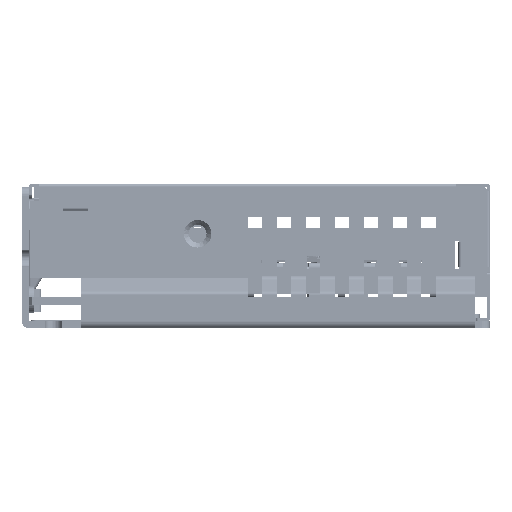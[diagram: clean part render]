
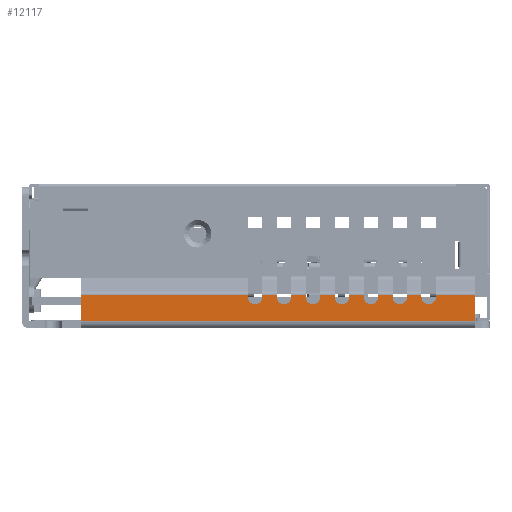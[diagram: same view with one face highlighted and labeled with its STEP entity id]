
A CAD part, left-side view. The second image highlights one B-rep face of the part: STEP entity #12117.
In plain terms, the highlighted planar face has unit normal (-1, 0, 0).
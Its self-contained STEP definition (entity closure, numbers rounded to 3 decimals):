
#3555=DIRECTION('',(0.,1.,0.));
#3556=VECTOR('',#3555,34.55);
#3557=CARTESIAN_POINT('',(-79.5,1.7,6.865));
#3558=LINE('',#3557,#3556);
#3559=DIRECTION('',(0.,0.,-1.));
#3560=VECTOR('',#3559,0.365);
#3561=CARTESIAN_POINT('',(-79.5,1.7,6.865));
#3562=LINE('',#3561,#3560);
#3563=CARTESIAN_POINT('',(-79.5,0.2,6.5));
#3564=DIRECTION('',(-1.,0.,0.));
#3565=DIRECTION('',(0.,1.,0.));
#3566=AXIS2_PLACEMENT_3D('',#3563,#3564,#3565);
#3568=DIRECTION('',(0.,0.,-1.));
#3569=VECTOR('',#3568,0.365);
#3570=CARTESIAN_POINT('',(-79.5,-1.3,6.865));
#3571=LINE('',#3570,#3569);
#3572=DIRECTION('',(0.,1.,0.));
#3573=VECTOR('',#3572,3.);
#3574=CARTESIAN_POINT('',(-79.5,-4.3,6.865));
#3575=LINE('',#3574,#3573);
#3576=DIRECTION('',(0.,0.,-1.));
#3577=VECTOR('',#3576,0.365);
#3578=CARTESIAN_POINT('',(-79.5,-4.3,6.865));
#3579=LINE('',#3578,#3577);
#3580=CARTESIAN_POINT('',(-79.5,-5.8,6.5));
#3581=DIRECTION('',(-1.,0.,0.));
#3582=DIRECTION('',(0.,1.,0.));
#3583=AXIS2_PLACEMENT_3D('',#3580,#3581,#3582);
#3585=DIRECTION('',(0.,0.,-1.));
#3586=VECTOR('',#3585,0.365);
#3587=CARTESIAN_POINT('',(-79.5,-7.3,6.865));
#3588=LINE('',#3587,#3586);
#3589=DIRECTION('',(0.,1.,0.));
#3590=VECTOR('',#3589,3.);
#3591=CARTESIAN_POINT('',(-79.5,-10.3,6.865));
#3592=LINE('',#3591,#3590);
#3593=DIRECTION('',(0.,0.,-1.));
#3594=VECTOR('',#3593,0.365);
#3595=CARTESIAN_POINT('',(-79.5,-10.3,6.865));
#3596=LINE('',#3595,#3594);
#3597=CARTESIAN_POINT('',(-79.5,-11.8,6.5));
#3598=DIRECTION('',(-1.,0.,0.));
#3599=DIRECTION('',(0.,1.,0.));
#3600=AXIS2_PLACEMENT_3D('',#3597,#3598,#3599);
#3602=DIRECTION('',(0.,0.,-1.));
#3603=VECTOR('',#3602,0.365);
#3604=CARTESIAN_POINT('',(-79.5,-13.3,6.865));
#3605=LINE('',#3604,#3603);
#3606=DIRECTION('',(0.,1.,0.));
#3607=VECTOR('',#3606,3.);
#3608=CARTESIAN_POINT('',(-79.5,-16.3,6.865));
#3609=LINE('',#3608,#3607);
#3610=DIRECTION('',(0.,0.,-1.));
#3611=VECTOR('',#3610,0.365);
#3612=CARTESIAN_POINT('',(-79.5,-16.3,6.865));
#3613=LINE('',#3612,#3611);
#3614=CARTESIAN_POINT('',(-79.5,-17.8,6.5));
#3615=DIRECTION('',(-1.,0.,0.));
#3616=DIRECTION('',(0.,1.,0.));
#3617=AXIS2_PLACEMENT_3D('',#3614,#3615,#3616);
#3619=DIRECTION('',(0.,0.,-1.));
#3620=VECTOR('',#3619,0.365);
#3621=CARTESIAN_POINT('',(-79.5,-19.3,6.865));
#3622=LINE('',#3621,#3620);
#3623=DIRECTION('',(0.,1.,0.));
#3624=VECTOR('',#3623,3.);
#3625=CARTESIAN_POINT('',(-79.5,-22.3,6.865));
#3626=LINE('',#3625,#3624);
#3627=DIRECTION('',(0.,0.,-1.));
#3628=VECTOR('',#3627,0.365);
#3629=CARTESIAN_POINT('',(-79.5,-22.3,6.865));
#3630=LINE('',#3629,#3628);
#3631=CARTESIAN_POINT('',(-79.5,-23.8,6.5));
#3632=DIRECTION('',(-1.,0.,0.));
#3633=DIRECTION('',(0.,1.,0.));
#3634=AXIS2_PLACEMENT_3D('',#3631,#3632,#3633);
#3636=DIRECTION('',(0.,0.,-1.));
#3637=VECTOR('',#3636,0.365);
#3638=CARTESIAN_POINT('',(-79.5,-25.3,6.865));
#3639=LINE('',#3638,#3637);
#3640=DIRECTION('',(0.,1.,0.));
#3641=VECTOR('',#3640,3.);
#3642=CARTESIAN_POINT('',(-79.5,-28.3,6.865));
#3643=LINE('',#3642,#3641);
#3644=DIRECTION('',(0.,0.,-1.));
#3645=VECTOR('',#3644,0.365);
#3646=CARTESIAN_POINT('',(-79.5,-28.3,6.865));
#3647=LINE('',#3646,#3645);
#3648=CARTESIAN_POINT('',(-79.5,-29.8,6.5));
#3649=DIRECTION('',(-1.,0.,0.));
#3650=DIRECTION('',(0.,1.,0.));
#3651=AXIS2_PLACEMENT_3D('',#3648,#3649,#3650);
#3653=DIRECTION('',(0.,0.,-1.));
#3654=VECTOR('',#3653,0.365);
#3655=CARTESIAN_POINT('',(-79.5,-31.3,6.865));
#3656=LINE('',#3655,#3654);
#3657=DIRECTION('',(0.,1.,0.));
#3658=VECTOR('',#3657,3.);
#3659=CARTESIAN_POINT('',(-79.5,-34.3,6.865));
#3660=LINE('',#3659,#3658);
#3661=DIRECTION('',(0.,0.,-1.));
#3662=VECTOR('',#3661,0.365);
#3663=CARTESIAN_POINT('',(-79.5,-34.3,6.865));
#3664=LINE('',#3663,#3662);
#3665=CARTESIAN_POINT('',(-79.5,-35.8,6.5));
#3666=DIRECTION('',(-1.,0.,0.));
#3667=DIRECTION('',(0.,1.,0.));
#3668=AXIS2_PLACEMENT_3D('',#3665,#3666,#3667);
#3670=DIRECTION('',(0.,0.,-1.));
#3671=VECTOR('',#3670,0.365);
#3672=CARTESIAN_POINT('',(-79.5,-37.3,6.865));
#3673=LINE('',#3672,#3671);
#3674=DIRECTION('',(0.,1.,0.));
#3675=VECTOR('',#3674,8.);
#3676=CARTESIAN_POINT('',(-79.5,-45.3,6.865));
#3677=LINE('',#3676,#3675);
#3678=DIRECTION('',(0.,0.,1.));
#3679=VECTOR('',#3678,5.365);
#3680=CARTESIAN_POINT('',(-79.5,-45.3,1.5));
#3681=LINE('',#3680,#3679);
#3682=DIRECTION('',(0.,0.,1.));
#3683=VECTOR('',#3682,5.365);
#3684=CARTESIAN_POINT('',(-79.5,36.25,1.5));
#3685=LINE('',#3684,#3683);
#4959=DIRECTION('',(0.,-1.,0.));
#4960=VECTOR('',#4959,81.55);
#4961=CARTESIAN_POINT('',(-79.5,36.25,1.5));
#4962=LINE('',#4961,#4960);
#5990=CARTESIAN_POINT('',(-79.5,-45.3,1.5));
#5992=VERTEX_POINT('',#5990);
#5994=CARTESIAN_POINT('',(-79.5,36.25,1.5));
#5995=VERTEX_POINT('',#5994);
#6806=CARTESIAN_POINT('',(-79.5,-34.3,6.5));
#6807=CARTESIAN_POINT('',(-79.5,-37.3,6.5));
#6808=VERTEX_POINT('',#6806);
#6809=VERTEX_POINT('',#6807);
#6818=CARTESIAN_POINT('',(-79.5,-28.3,6.5));
#6819=CARTESIAN_POINT('',(-79.5,-31.3,6.5));
#6820=VERTEX_POINT('',#6818);
#6821=VERTEX_POINT('',#6819);
#6830=CARTESIAN_POINT('',(-79.5,-22.3,6.5));
#6831=CARTESIAN_POINT('',(-79.5,-25.3,6.5));
#6832=VERTEX_POINT('',#6830);
#6833=VERTEX_POINT('',#6831);
#6842=CARTESIAN_POINT('',(-79.5,-16.3,6.5));
#6843=CARTESIAN_POINT('',(-79.5,-19.3,6.5));
#6844=VERTEX_POINT('',#6842);
#6845=VERTEX_POINT('',#6843);
#6854=CARTESIAN_POINT('',(-79.5,-10.3,6.5));
#6855=CARTESIAN_POINT('',(-79.5,-13.3,6.5));
#6856=VERTEX_POINT('',#6854);
#6857=VERTEX_POINT('',#6855);
#6866=CARTESIAN_POINT('',(-79.5,-4.3,6.5));
#6867=CARTESIAN_POINT('',(-79.5,-7.3,6.5));
#6868=VERTEX_POINT('',#6866);
#6869=VERTEX_POINT('',#6867);
#6970=CARTESIAN_POINT('',(-79.5,36.25,6.865));
#6972=VERTEX_POINT('',#6970);
#6978=CARTESIAN_POINT('',(-79.5,1.7,6.865));
#6979=VERTEX_POINT('',#6978);
#6980=CARTESIAN_POINT('',(-79.5,-7.3,6.865));
#6982=VERTEX_POINT('',#6980);
#6990=CARTESIAN_POINT('',(-79.5,-10.3,6.865));
#6991=VERTEX_POINT('',#6990);
#6992=CARTESIAN_POINT('',(-79.5,-13.3,6.865));
#6994=VERTEX_POINT('',#6992);
#7002=CARTESIAN_POINT('',(-79.5,-16.3,6.865));
#7003=VERTEX_POINT('',#7002);
#7004=CARTESIAN_POINT('',(-79.5,-19.3,6.865));
#7006=VERTEX_POINT('',#7004);
#7014=CARTESIAN_POINT('',(-79.5,-22.3,6.865));
#7015=VERTEX_POINT('',#7014);
#7016=CARTESIAN_POINT('',(-79.5,-25.3,6.865));
#7018=VERTEX_POINT('',#7016);
#7026=CARTESIAN_POINT('',(-79.5,-28.3,6.865));
#7027=VERTEX_POINT('',#7026);
#7028=CARTESIAN_POINT('',(-79.5,-31.3,6.865));
#7030=VERTEX_POINT('',#7028);
#7038=CARTESIAN_POINT('',(-79.5,-34.3,6.865));
#7039=VERTEX_POINT('',#7038);
#7040=CARTESIAN_POINT('',(-79.5,-37.3,6.865));
#7042=VERTEX_POINT('',#7040);
#7050=CARTESIAN_POINT('',(-79.5,-45.3,6.865));
#7051=VERTEX_POINT('',#7050);
#7052=CARTESIAN_POINT('',(-79.5,-4.3,6.865));
#7053=VERTEX_POINT('',#7052);
#7070=CARTESIAN_POINT('',(-79.5,1.7,6.5));
#7071=CARTESIAN_POINT('',(-79.5,-1.3,6.5));
#7072=VERTEX_POINT('',#7070);
#7073=VERTEX_POINT('',#7071);
#7108=CARTESIAN_POINT('',(-79.5,-1.3,6.865));
#7110=VERTEX_POINT('',#7108);
#12050=CARTESIAN_POINT('',(-79.5,16.874,0.));
#12051=DIRECTION('',(-1.,0.,0.));
#12052=DIRECTION('',(0.,-1.,0.));
#12053=AXIS2_PLACEMENT_3D('',#12050,#12051,#12052);
#12054=PLANE('',#12053);
#12055=ORIENTED_EDGE('',*,*,#11280,.F.);
#12057=ORIENTED_EDGE('',*,*,#12056,.T.);
#12059=ORIENTED_EDGE('',*,*,#12058,.T.);
#12061=ORIENTED_EDGE('',*,*,#12060,.F.);
#12063=ORIENTED_EDGE('',*,*,#12062,.F.);
#12065=ORIENTED_EDGE('',*,*,#12064,.T.);
#12067=ORIENTED_EDGE('',*,*,#12066,.T.);
#12068=ORIENTED_EDGE('',*,*,#12039,.F.);
#12069=ORIENTED_EDGE('',*,*,#12028,.F.);
#12071=ORIENTED_EDGE('',*,*,#12070,.T.);
#12073=ORIENTED_EDGE('',*,*,#12072,.T.);
#12075=ORIENTED_EDGE('',*,*,#12074,.F.);
#12077=ORIENTED_EDGE('',*,*,#12076,.F.);
#12079=ORIENTED_EDGE('',*,*,#12078,.T.);
#12081=ORIENTED_EDGE('',*,*,#12080,.T.);
#12083=ORIENTED_EDGE('',*,*,#12082,.F.);
#12085=ORIENTED_EDGE('',*,*,#12084,.F.);
#12087=ORIENTED_EDGE('',*,*,#12086,.T.);
#12089=ORIENTED_EDGE('',*,*,#12088,.T.);
#12091=ORIENTED_EDGE('',*,*,#12090,.F.);
#12093=ORIENTED_EDGE('',*,*,#12092,.F.);
#12095=ORIENTED_EDGE('',*,*,#12094,.T.);
#12097=ORIENTED_EDGE('',*,*,#12096,.T.);
#12099=ORIENTED_EDGE('',*,*,#12098,.F.);
#12101=ORIENTED_EDGE('',*,*,#12100,.F.);
#12103=ORIENTED_EDGE('',*,*,#12102,.T.);
#12105=ORIENTED_EDGE('',*,*,#12104,.T.);
#12107=ORIENTED_EDGE('',*,*,#12106,.F.);
#12109=ORIENTED_EDGE('',*,*,#12108,.F.);
#12111=ORIENTED_EDGE('',*,*,#12110,.F.);
#12113=ORIENTED_EDGE('',*,*,#12112,.F.);
#12114=ORIENTED_EDGE('',*,*,#11256,.T.);
#12115=EDGE_LOOP('',(#12055,#12057,#12059,#12061,#12063,#12065,#12067,#12068,
#12069,#12071,#12073,#12075,#12077,#12079,#12081,#12083,#12085,#12087,#12089,
#12091,#12093,#12095,#12097,#12099,#12101,#12103,#12105,#12107,#12109,#12111,
#12113,#12114));
#12116=FACE_OUTER_BOUND('',#12115,.F.);
#3567=CIRCLE('',#3566,1.5);
#3584=CIRCLE('',#3583,1.5);
#3601=CIRCLE('',#3600,1.5);
#3618=CIRCLE('',#3617,1.5);
#3635=CIRCLE('',#3634,1.5);
#3652=CIRCLE('',#3651,1.5);
#3669=CIRCLE('',#3668,1.5);
#11256=EDGE_CURVE('',#5995,#6972,#3685,.T.);
#11280=EDGE_CURVE('',#6979,#6972,#3558,.T.);
#12028=EDGE_CURVE('',#6991,#6982,#3592,.T.);
#12039=EDGE_CURVE('',#6982,#6869,#3588,.T.);
#12056=EDGE_CURVE('',#6979,#7072,#3562,.T.);
#12058=EDGE_CURVE('',#7072,#7073,#3567,.T.);
#12060=EDGE_CURVE('',#7110,#7073,#3571,.T.);
#12062=EDGE_CURVE('',#7053,#7110,#3575,.T.);
#12064=EDGE_CURVE('',#7053,#6868,#3579,.T.);
#12066=EDGE_CURVE('',#6868,#6869,#3584,.T.);
#12070=EDGE_CURVE('',#6991,#6856,#3596,.T.);
#12072=EDGE_CURVE('',#6856,#6857,#3601,.T.);
#12074=EDGE_CURVE('',#6994,#6857,#3605,.T.);
#12076=EDGE_CURVE('',#7003,#6994,#3609,.T.);
#12078=EDGE_CURVE('',#7003,#6844,#3613,.T.);
#12080=EDGE_CURVE('',#6844,#6845,#3618,.T.);
#12082=EDGE_CURVE('',#7006,#6845,#3622,.T.);
#12084=EDGE_CURVE('',#7015,#7006,#3626,.T.);
#12086=EDGE_CURVE('',#7015,#6832,#3630,.T.);
#12088=EDGE_CURVE('',#6832,#6833,#3635,.T.);
#12090=EDGE_CURVE('',#7018,#6833,#3639,.T.);
#12092=EDGE_CURVE('',#7027,#7018,#3643,.T.);
#12094=EDGE_CURVE('',#7027,#6820,#3647,.T.);
#12096=EDGE_CURVE('',#6820,#6821,#3652,.T.);
#12098=EDGE_CURVE('',#7030,#6821,#3656,.T.);
#12100=EDGE_CURVE('',#7039,#7030,#3660,.T.);
#12102=EDGE_CURVE('',#7039,#6808,#3664,.T.);
#12104=EDGE_CURVE('',#6808,#6809,#3669,.T.);
#12106=EDGE_CURVE('',#7042,#6809,#3673,.T.);
#12108=EDGE_CURVE('',#7051,#7042,#3677,.T.);
#12110=EDGE_CURVE('',#5992,#7051,#3681,.T.);
#12112=EDGE_CURVE('',#5995,#5992,#4962,.T.);
#12117=ADVANCED_FACE('',(#12116),#12054,.T.);
